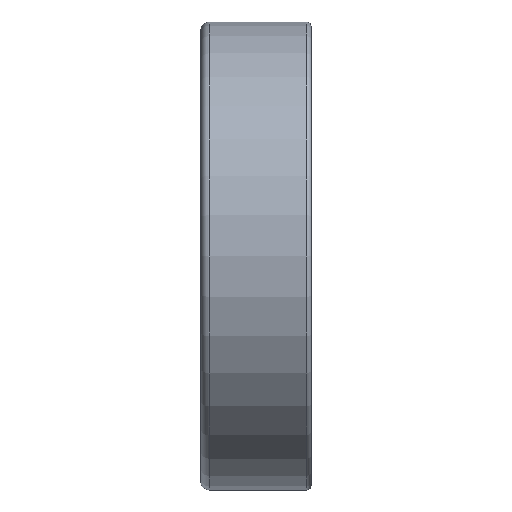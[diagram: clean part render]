
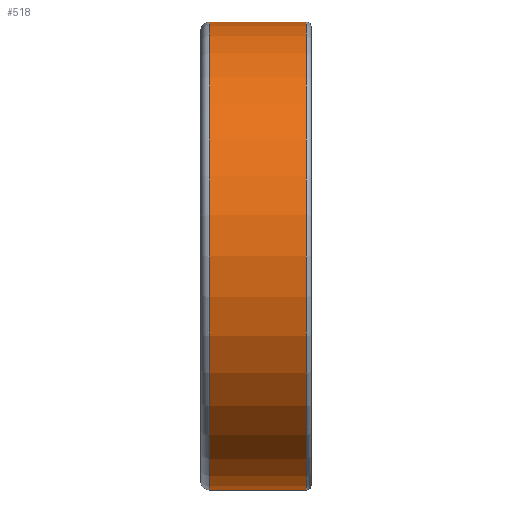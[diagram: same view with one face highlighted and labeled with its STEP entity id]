
A CAD part, front view. The second image highlights one B-rep face of the part: STEP entity #518.
In plain terms, the highlighted cylindrical face has radius 27.5 mm (diameter 55 mm), a full revolution.
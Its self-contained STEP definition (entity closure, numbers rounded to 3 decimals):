
#161=CYLINDRICAL_SURFACE('',#806,27.5);
#253=EDGE_LOOP('',(#357));
#254=EDGE_LOOP('',(#358));
#357=ORIENTED_EDGE('',*,*,#417,.F.);
#358=ORIENTED_EDGE('',*,*,#415,.T.);
#415=EDGE_CURVE('',#737,#737,#435,.T.);
#417=EDGE_CURVE('',#739,#739,#437,.T.);
#435=CIRCLE('',#802,27.5);
#437=CIRCLE('',#805,27.5);
#518=ADVANCED_FACE('',(#647,#648),#161,.T.);
#647=FACE_BOUND('',#253,.T.);
#648=FACE_BOUND('',#254,.T.);
#737=VERTEX_POINT('',#2930);
#739=VERTEX_POINT('',#2935);
#802=AXIS2_PLACEMENT_3D('',#2929,#924,#925);
#805=AXIS2_PLACEMENT_3D('',#2934,#930,#931);
#806=AXIS2_PLACEMENT_3D('',#2936,#932,#933);
#924=DIRECTION('',(1.,0.,0.));
#925=DIRECTION('',(0.,0.,-1.));
#930=DIRECTION('',(1.,0.,0.));
#931=DIRECTION('',(0.,0.,-1.));
#932=DIRECTION('',(1.,0.,0.));
#933=DIRECTION('',(0.,0.,-1.));
#2929=CARTESIAN_POINT('',(-5.5,0.,0.));
#2930=CARTESIAN_POINT('',(-5.5,0.,-27.5));
#2934=CARTESIAN_POINT('',(5.9,0.,0.));
#2935=CARTESIAN_POINT('',(5.9,0.,-27.5));
#2936=CARTESIAN_POINT('',(-5.5,0.,0.));
